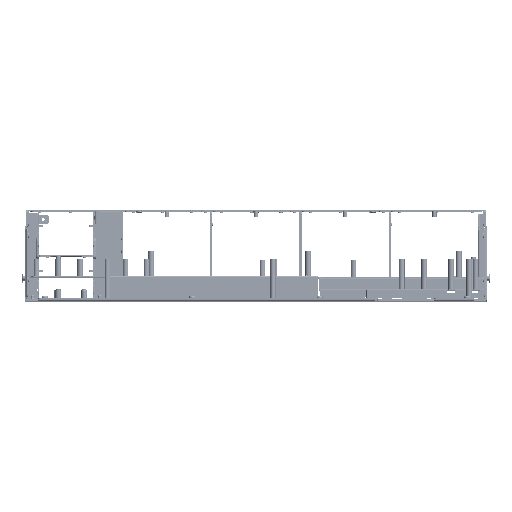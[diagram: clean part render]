
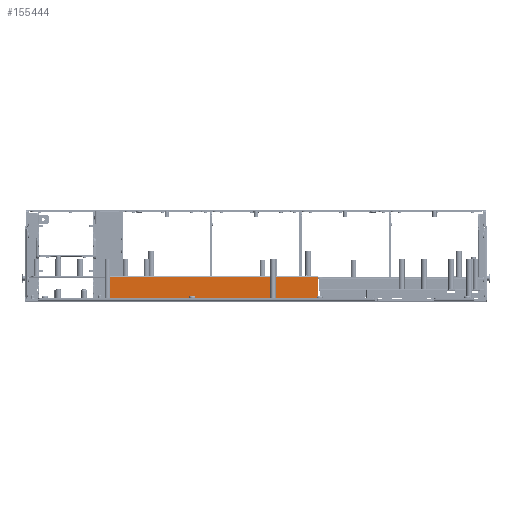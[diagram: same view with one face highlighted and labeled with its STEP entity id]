
A CAD part, top view. The second image highlights one B-rep face of the part: STEP entity #155444.
In plain terms, the highlighted planar face has unit normal (0, 0, 1).
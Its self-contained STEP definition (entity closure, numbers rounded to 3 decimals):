
#149354=DIRECTION('',(-1.,0.,0.));
#149355=VECTOR('',#149354,200.1);
#149356=CARTESIAN_POINT('',(58.,22.2,-88.2));
#149357=LINE('',#149356,#149355);
#149362=CARTESIAN_POINT('',(56.,4.2,-88.2));
#149363=DIRECTION('',(0.,0.,-1.));
#149364=DIRECTION('',(1.,0.,0.));
#149365=AXIS2_PLACEMENT_3D('',#149362,#149363,#149364);
#149367=CARTESIAN_POINT('',(-140.1,4.2,-88.2));
#149368=DIRECTION('',(0.,0.,-1.));
#149369=DIRECTION('',(0.,-1.,0.));
#149370=AXIS2_PLACEMENT_3D('',#149367,#149368,#149369);
#149380=DIRECTION('',(0.,1.,0.));
#149381=VECTOR('',#149380,18.);
#149382=CARTESIAN_POINT('',(58.,4.2,-88.2));
#149383=LINE('',#149382,#149381);
#150401=DIRECTION('',(0.,-1.,0.));
#150402=VECTOR('',#150401,18.);
#150403=CARTESIAN_POINT('',(-142.1,22.2,-88.2));
#150404=LINE('',#150403,#150402);
#150413=DIRECTION('',(1.,0.,0.));
#150414=VECTOR('',#150413,196.1);
#150415=CARTESIAN_POINT('',(-140.1,2.2,-88.2));
#150416=LINE('',#150415,#150414);
#153762=CARTESIAN_POINT('',(-142.1,22.2,-88.2));
#153763=VERTEX_POINT('',#153762);
#153764=CARTESIAN_POINT('',(58.,22.2,-88.2));
#153765=VERTEX_POINT('',#153764);
#153766=CARTESIAN_POINT('',(58.,4.2,-88.2));
#153767=CARTESIAN_POINT('',(56.,2.2,-88.2));
#153768=VERTEX_POINT('',#153766);
#153769=VERTEX_POINT('',#153767);
#153770=CARTESIAN_POINT('',(-140.1,2.2,-88.2));
#153771=VERTEX_POINT('',#153770);
#153772=CARTESIAN_POINT('',(-142.1,4.2,-88.2));
#153773=VERTEX_POINT('',#153772);
#155426=CARTESIAN_POINT('',(-215.65,23.2,-88.2));
#155427=DIRECTION('',(0.,0.,1.));
#155428=DIRECTION('',(-1.,0.,0.));
#155429=AXIS2_PLACEMENT_3D('',#155426,#155427,#155428);
#155430=PLANE('',#155429);
#155432=ORIENTED_EDGE('',*,*,#155431,.T.);
#155434=ORIENTED_EDGE('',*,*,#155433,.F.);
#155436=ORIENTED_EDGE('',*,*,#155435,.T.);
#155438=ORIENTED_EDGE('',*,*,#155437,.F.);
#155439=ORIENTED_EDGE('',*,*,#155417,.F.);
#155441=ORIENTED_EDGE('',*,*,#155440,.F.);
#155442=EDGE_LOOP('',(#155432,#155434,#155436,#155438,#155439,#155441));
#155443=FACE_OUTER_BOUND('',#155442,.F.);
#149366=CIRCLE('',#149365,2.);
#149371=CIRCLE('',#149370,2.);
#155417=EDGE_CURVE('',#153765,#153763,#149357,.T.);
#155431=EDGE_CURVE('',#153768,#153769,#149366,.T.);
#155433=EDGE_CURVE('',#153771,#153769,#150416,.T.);
#155435=EDGE_CURVE('',#153771,#153773,#149371,.T.);
#155437=EDGE_CURVE('',#153763,#153773,#150404,.T.);
#155440=EDGE_CURVE('',#153768,#153765,#149383,.T.);
#155444=ADVANCED_FACE('',(#155443),#155430,.T.);
